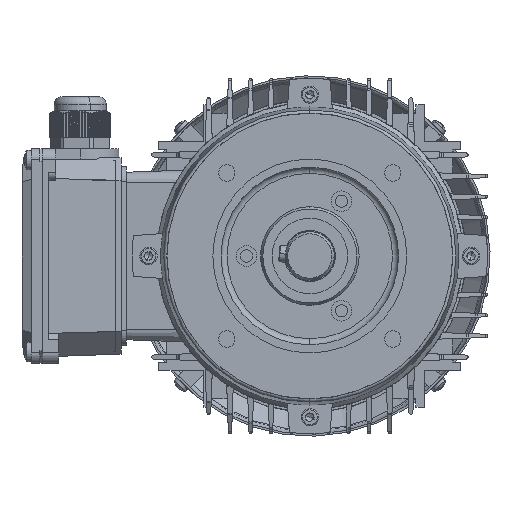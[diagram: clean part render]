
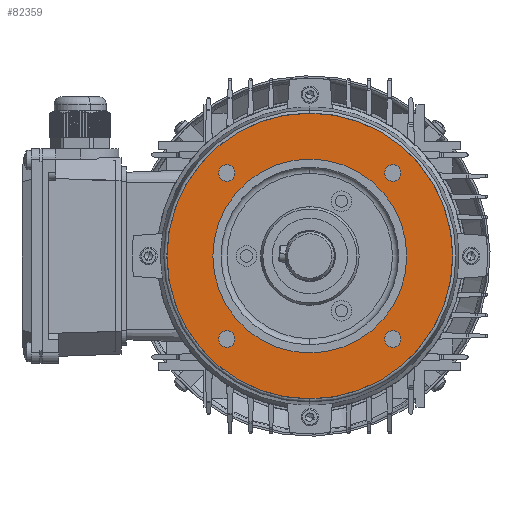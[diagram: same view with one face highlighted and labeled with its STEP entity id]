
A CAD part, left-side view. The second image highlights one B-rep face of the part: STEP entity #82359.
In plain terms, the highlighted planar face has unit normal (-1, 0, 0).
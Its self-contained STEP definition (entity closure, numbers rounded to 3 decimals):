
#326 = EDGE_LOOP ( 'NONE', ( #14979, #24898 ) ) ;
#2959 = EDGE_CURVE ( 'NONE', #74675, #63340, #103964, .T. ) ;
#3739 = CIRCLE ( 'NONE', #27864, 4. ) ;
#3959 = CARTESIAN_POINT ( 'NONE',  ( 3., 0., -70. ) ) ;
#4175 = ORIENTED_EDGE ( 'NONE', *, *, #81208, .T. ) ;
#5375 = AXIS2_PLACEMENT_3D ( 'NONE', #15117, #102207, #91016 ) ;
#6878 = DIRECTION ( 'NONE',  ( 0., 0., -1. ) ) ;
#7118 = CARTESIAN_POINT ( 'NONE',  ( 3., 40.659, 36.659 ) ) ;
#8542 = DIRECTION ( 'NONE',  ( 1., 0., 0. ) ) ;
#10064 = CARTESIAN_POINT ( 'NONE',  ( 3., 0., 70. ) ) ;
#10327 = DIRECTION ( 'NONE',  ( 0., 0., 1. ) ) ;
#10540 = FACE_BOUND ( 'NONE', #85070, .T. ) ;
#11956 = AXIS2_PLACEMENT_3D ( 'NONE', #52573, #41382, #30176 ) ;
#12338 = ORIENTED_EDGE ( 'NONE', *, *, #26681, .T. ) ;
#12685 = CARTESIAN_POINT ( 'NONE',  ( 3., -40.659, 40.659 ) ) ;
#14554 = VERTEX_POINT ( 'NONE', #21719 ) ;
#14979 = ORIENTED_EDGE ( 'NONE', *, *, #32676, .T. ) ;
#15117 = CARTESIAN_POINT ( 'NONE',  ( 3., 0., 0. ) ) ;
#15918 = DIRECTION ( 'NONE',  ( 0., 0., -1. ) ) ;
#16425 = DIRECTION ( 'NONE',  ( 0., 0., -1. ) ) ;
#18097 = DIRECTION ( 'NONE',  ( 1., 0., 0. ) ) ;
#18708 = CIRCLE ( 'NONE', #42987, 4. ) ;
#20853 = VERTEX_POINT ( 'NONE', #7118 ) ;
#21597 = DIRECTION ( 'NONE',  ( -1., 0., 0. ) ) ;
#21719 = CARTESIAN_POINT ( 'NONE',  ( 3., 0., 47.5 ) ) ;
#24898 = ORIENTED_EDGE ( 'NONE', *, *, #2959, .T. ) ;
#26420 = EDGE_CURVE ( 'NONE', #14554, #50379, #109248, .T. ) ;
#26681 = EDGE_CURVE ( 'NONE', #82219, #86039, #50387, .T. ) ;
#27153 = DIRECTION ( 'NONE',  ( 1., 0., 0. ) ) ;
#27681 = DIRECTION ( 'NONE',  ( 1., 0., 0. ) ) ;
#27864 = AXIS2_PLACEMENT_3D ( 'NONE', #53300, #42110, #30897 ) ;
#29352 = CARTESIAN_POINT ( 'NONE',  ( 3., 40.659, -40.659 ) ) ;
#30176 = DIRECTION ( 'NONE',  ( 0., 0., 1. ) ) ;
#30400 = AXIS2_PLACEMENT_3D ( 'NONE', #38909, #27681, #16425 ) ;
#30897 = DIRECTION ( 'NONE',  ( 0., 0., -1. ) ) ;
#30982 = EDGE_CURVE ( 'NONE', #20853, #49540, #53378, .T. ) ;
#32655 = ORIENTED_EDGE ( 'NONE', *, *, #59408, .T. ) ;
#32676 = EDGE_CURVE ( 'NONE', #63340, #74675, #96494, .T. ) ;
#32832 = CARTESIAN_POINT ( 'NONE',  ( 3., 0., 0. ) ) ;
#38314 = CARTESIAN_POINT ( 'NONE',  ( 3., -40.659, -44.659 ) ) ;
#38381 = CARTESIAN_POINT ( 'NONE',  ( 3., -40.659, 40.659 ) ) ;
#38724 = CIRCLE ( 'NONE', #5375, 47.5 ) ;
#38909 = CARTESIAN_POINT ( 'NONE',  ( 3., 47.5, 0. ) ) ;
#39270 = AXIS2_PLACEMENT_3D ( 'NONE', #86208, #75013, #63791 ) ;
#40621 = ORIENTED_EDGE ( 'NONE', *, *, #81956, .T. ) ;
#41382 = DIRECTION ( 'NONE',  ( -1., 0., 0. ) ) ;
#41736 = CIRCLE ( 'NONE', #39270, 4. ) ;
#42110 = DIRECTION ( 'NONE',  ( 1., 0., 0. ) ) ;
#42987 = AXIS2_PLACEMENT_3D ( 'NONE', #53436, #8542, #106832 ) ;
#43269 = EDGE_LOOP ( 'NONE', ( #60793, #50075 ) ) ;
#44303 = CIRCLE ( 'NONE', #49111, 4. ) ;
#44500 = FACE_BOUND ( 'NONE', #43269, .T. ) ;
#47184 = EDGE_CURVE ( 'NONE', #50379, #14554, #38724, .T. ) ;
#47326 = FACE_BOUND ( 'NONE', #326, .T. ) ;
#49111 = AXIS2_PLACEMENT_3D ( 'NONE', #12685, #88560, #77371 ) ;
#49540 = VERTEX_POINT ( 'NONE', #63063 ) ;
#50075 = ORIENTED_EDGE ( 'NONE', *, *, #77261, .T. ) ;
#50105 = PLANE ( 'NONE',  #30400 ) ;
#50379 = VERTEX_POINT ( 'NONE', #72276 ) ;
#50387 = CIRCLE ( 'NONE', #81056, 70. ) ;
#52573 = CARTESIAN_POINT ( 'NONE',  ( 3., 0., 0. ) ) ;
#52986 = FACE_BOUND ( 'NONE', #89070, .T. ) ;
#52999 = EDGE_LOOP ( 'NONE', ( #32655, #12338 ) ) ;
#53300 = CARTESIAN_POINT ( 'NONE',  ( 3., -40.659, -40.659 ) ) ;
#53378 = CIRCLE ( 'NONE', #63832, 4. ) ;
#53436 = CARTESIAN_POINT ( 'NONE',  ( 3., 40.659, 40.659 ) ) ;
#55474 = ORIENTED_EDGE ( 'NONE', *, *, #107867, .T. ) ;
#55808 = FACE_BOUND ( 'NONE', #101089, .T. ) ;
#55922 = ORIENTED_EDGE ( 'NONE', *, *, #47184, .F. ) ;
#59408 = EDGE_CURVE ( 'NONE', #86039, #82219, #104921, .T. ) ;
#59977 = DIRECTION ( 'NONE',  ( 0., 0., -1. ) ) ;
#60793 = ORIENTED_EDGE ( 'NONE', *, *, #96261, .T. ) ;
#61388 = DIRECTION ( 'NONE',  ( 0., 0., -1. ) ) ;
#61451 = FACE_OUTER_BOUND ( 'NONE', #52999, .T. ) ;
#61893 = DIRECTION ( 'NONE',  ( 0., 0., 1. ) ) ;
#63063 = CARTESIAN_POINT ( 'NONE',  ( 3., 40.659, 44.659 ) ) ;
#63134 = AXIS2_PLACEMENT_3D ( 'NONE', #29352, #18097, #6878 ) ;
#63340 = VERTEX_POINT ( 'NONE', #79858 ) ;
#63424 = VERTEX_POINT ( 'NONE', #38314 ) ;
#63434 = CARTESIAN_POINT ( 'NONE',  ( 3., -40.659, 36.659 ) ) ;
#63791 = DIRECTION ( 'NONE',  ( 0., 0., -1. ) ) ;
#63832 = AXIS2_PLACEMENT_3D ( 'NONE', #83815, #72608, #61388 ) ;
#64527 = CARTESIAN_POINT ( 'NONE',  ( 3., 0., 0. ) ) ;
#65069 = VERTEX_POINT ( 'NONE', #82094 ) ;
#65079 = CARTESIAN_POINT ( 'NONE',  ( 3., -40.659, -36.659 ) ) ;
#69604 = CIRCLE ( 'NONE', #104494, 4. ) ;
#71194 = DIRECTION ( 'NONE',  ( 1., 0., 0. ) ) ;
#72276 = CARTESIAN_POINT ( 'NONE',  ( 3., 0., -47.5 ) ) ;
#72608 = DIRECTION ( 'NONE',  ( 1., 0., 0. ) ) ;
#73103 = DIRECTION ( 'NONE',  ( -1., 0., 0. ) ) ;
#73593 = CARTESIAN_POINT ( 'NONE',  ( 3., 40.659, -36.659 ) ) ;
#74675 = VERTEX_POINT ( 'NONE', #73593 ) ;
#75013 = DIRECTION ( 'NONE',  ( 1., 0., 0. ) ) ;
#77261 = EDGE_CURVE ( 'NONE', #97448, #63424, #41736, .T. ) ;
#77371 = DIRECTION ( 'NONE',  ( 0., 0., -1. ) ) ;
#77529 = AXIS2_PLACEMENT_3D ( 'NONE', #64527, #73103, #61893 ) ;
#79858 = CARTESIAN_POINT ( 'NONE',  ( 3., 40.659, -44.659 ) ) ;
#81056 = AXIS2_PLACEMENT_3D ( 'NONE', #32832, #21597, #10327 ) ;
#81208 = EDGE_CURVE ( 'NONE', #49540, #20853, #18708, .T. ) ;
#81956 = EDGE_CURVE ( 'NONE', #99340, #65069, #69604, .T. ) ;
#82094 = CARTESIAN_POINT ( 'NONE',  ( 3., -40.659, 44.659 ) ) ;
#82219 = VERTEX_POINT ( 'NONE', #3959 ) ;
#82359 = ADVANCED_FACE ( 'NONE', ( #10540, #44500, #47326, #52986, #55808, #61451 ), #50105, .F. ) ;
#83815 = CARTESIAN_POINT ( 'NONE',  ( 3., 40.659, 40.659 ) ) ;
#85070 = EDGE_LOOP ( 'NONE', ( #40621, #55474 ) ) ;
#86039 = VERTEX_POINT ( 'NONE', #10064 ) ;
#86208 = CARTESIAN_POINT ( 'NONE',  ( 3., -40.659, -40.659 ) ) ;
#87724 = AXIS2_PLACEMENT_3D ( 'NONE', #104825, #71194, #59977 ) ;
#88560 = DIRECTION ( 'NONE',  ( 1., 0., 0. ) ) ;
#89070 = EDGE_LOOP ( 'NONE', ( #101425, #4175 ) ) ;
#91016 = DIRECTION ( 'NONE',  ( 0., 0., 1. ) ) ;
#96261 = EDGE_CURVE ( 'NONE', #63424, #97448, #3739, .T. ) ;
#96494 = CIRCLE ( 'NONE', #87724, 4. ) ;
#97448 = VERTEX_POINT ( 'NONE', #65079 ) ;
#99340 = VERTEX_POINT ( 'NONE', #63434 ) ;
#101089 = EDGE_LOOP ( 'NONE', ( #102676, #55922 ) ) ;
#101425 = ORIENTED_EDGE ( 'NONE', *, *, #30982, .T. ) ;
#102207 = DIRECTION ( 'NONE',  ( -1., 0., 0. ) ) ;
#102676 = ORIENTED_EDGE ( 'NONE', *, *, #26420, .F. ) ;
#103964 = CIRCLE ( 'NONE', #63134, 4. ) ;
#104494 = AXIS2_PLACEMENT_3D ( 'NONE', #38381, #27153, #15918 ) ;
#104825 = CARTESIAN_POINT ( 'NONE',  ( 3., 40.659, -40.659 ) ) ;
#104921 = CIRCLE ( 'NONE', #11956, 70. ) ;
#106832 = DIRECTION ( 'NONE',  ( 0., 0., -1. ) ) ;
#107867 = EDGE_CURVE ( 'NONE', #65069, #99340, #44303, .T. ) ;
#109248 = CIRCLE ( 'NONE', #77529, 47.5 ) ;
